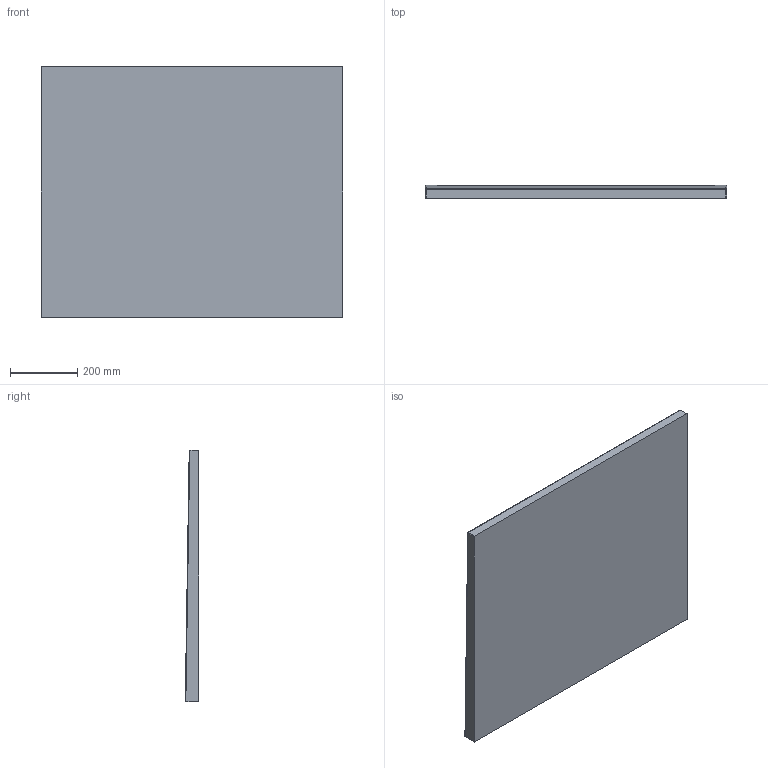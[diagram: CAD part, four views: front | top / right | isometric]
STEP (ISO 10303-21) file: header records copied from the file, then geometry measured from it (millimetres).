
FILE_DESCRIPTION(/* description */ (''),/* implementation_level */ '2;1');
FILE_NAME(/* name */ 'KIT1TR9N.stp',/* time_stamp */ '2021-01-11T15:29:48+01:00',/* author */ (''),/* organization */ (''),/* preprocessor_version */ 'ST-DEVELOPER v16',/* originating_system */ 'SIEMENS PLM Software NX 11.0',/* authorisation */ '');
FILE_SCHEMA (('AUTOMOTIVE_DESIGN { 1 0 10303 214 3 1 1 1 }'));
Length unit declared in the file: millimetre
Products named in the file (1): Mart4134F0F8rul4
Bounding box: 896 x 40.25 x 750 mm (x, y, z)
Volume: 22370603.2 mm3; surface area: 1484376.4 mm2
Topology: 5 solids, 5 shells, 509 faces, 1284 edges, 819 vertices
Faces by surface type: plane 225, cylinder 208, torus 40, cone 21, bspline 11, sphere 4
Full cylindrical faces by diameter (mm): 1.697 x40
Entity records: 15478 total; most frequent: CARTESIAN_POINT 3178, DIRECTION 2657, ORIENTED_EDGE 2400, EDGE_CURVE 1200, AXIS2_PLACEMENT_3D 970, VERTEX_POINT 819, LINE 717, VECTOR 717
